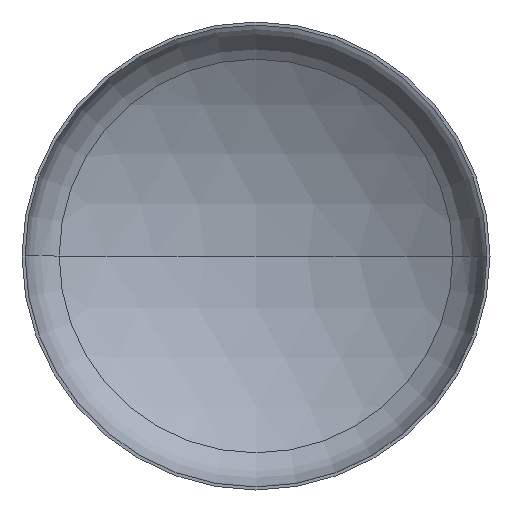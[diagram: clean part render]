
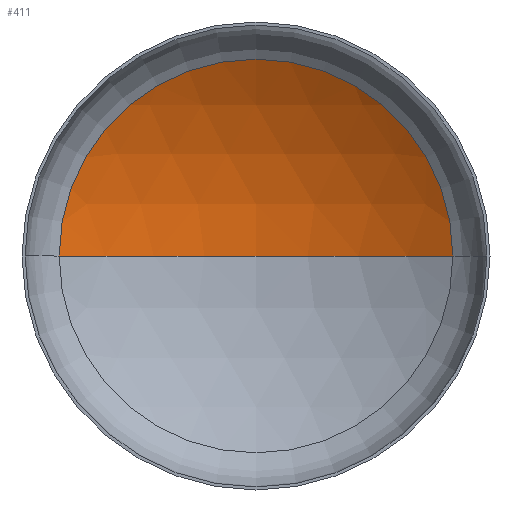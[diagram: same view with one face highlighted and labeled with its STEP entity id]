
A CAD part, front view. The second image highlights one B-rep face of the part: STEP entity #411.
In plain terms, the highlighted spherical face has radius 4400 mm.
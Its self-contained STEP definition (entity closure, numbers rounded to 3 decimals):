
#9 = DIRECTION ( 'NONE',  ( -1., 0., 0. ) ) ;
#10 = DIRECTION ( 'NONE',  ( 0., 0., -1. ) ) ;
#24 = CARTESIAN_POINT ( 'NONE',  ( 0., -2914.048, 0. ) ) ;
#50 = DIRECTION ( 'NONE',  ( -1., 0., 0. ) ) ;
#55 = DIRECTION ( 'NONE',  ( 0., 0., -1. ) ) ;
#64 = VERTEX_POINT ( 'NONE', #114 ) ;
#77 = VERTEX_POINT ( 'NONE', #341 ) ;
#98 = CIRCLE ( 'NONE', #168, 4400. ) ;
#100 = EDGE_CURVE ( 'NONE', #77, #64, #98, .T. ) ;
#114 = CARTESIAN_POINT ( 'NONE',  ( -2313.249, 828.796, 0. ) ) ;
#130 = ORIENTED_EDGE ( 'NONE', *, *, #207, .T. ) ;
#138 = CARTESIAN_POINT ( 'NONE',  ( 0., -2914.048, 0. ) ) ;
#148 = ORIENTED_EDGE ( 'NONE', *, *, #150, .T. ) ;
#150 = EDGE_CURVE ( 'NONE', #77, #193, #191, .T. ) ;
#155 = EDGE_LOOP ( 'NONE', ( #221, #148, #130 ) ) ;
#156 = AXIS2_PLACEMENT_3D ( 'NONE', #24, #10, #9 ) ;
#168 = AXIS2_PLACEMENT_3D ( 'NONE', #138, #217, #208 ) ;
#170 = SPHERICAL_SURFACE ( 'NONE', #156, 4400. ) ;
#172 = CARTESIAN_POINT ( 'NONE',  ( 0., 828.796, 0. ) ) ;
#188 = DIRECTION ( 'NONE',  ( 1., 0., 0. ) ) ;
#190 = DIRECTION ( 'NONE',  ( 0., -1., 0. ) ) ;
#191 = CIRCLE ( 'NONE', #218, 4400. ) ;
#193 = VERTEX_POINT ( 'NONE', #326 ) ;
#207 = EDGE_CURVE ( 'NONE', #193, #64, #259, .T. ) ;
#208 = DIRECTION ( 'NONE',  ( 1., 0., 0. ) ) ;
#217 = DIRECTION ( 'NONE',  ( 0., 0., 1. ) ) ;
#218 = AXIS2_PLACEMENT_3D ( 'NONE', #299, #55, #50 ) ;
#221 = ORIENTED_EDGE ( 'NONE', *, *, #100, .F. ) ;
#250 = AXIS2_PLACEMENT_3D ( 'NONE', #172, #190, #188 ) ;
#259 = CIRCLE ( 'NONE', #250, 2313.249 ) ;
#299 = CARTESIAN_POINT ( 'NONE',  ( 0., -2914.048, 0. ) ) ;
#313 = FACE_OUTER_BOUND ( 'NONE', #155, .T. ) ;
#326 = CARTESIAN_POINT ( 'NONE',  ( 2313.249, 828.796, 0. ) ) ;
#341 = CARTESIAN_POINT ( 'NONE',  ( 0., 1485.952, 0. ) ) ;
#411 = ADVANCED_FACE ( 'NONE', ( #313 ), #170, .F. ) ;
